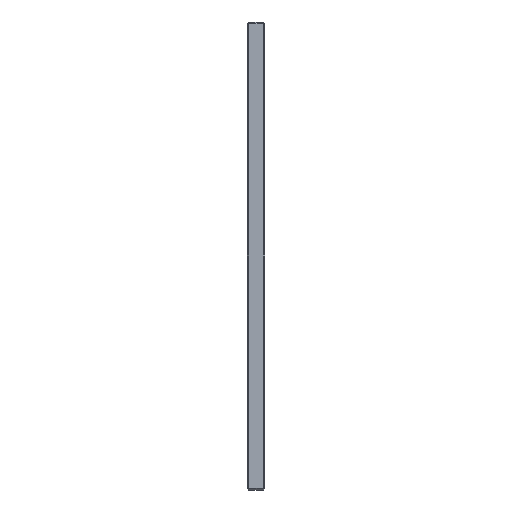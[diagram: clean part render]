
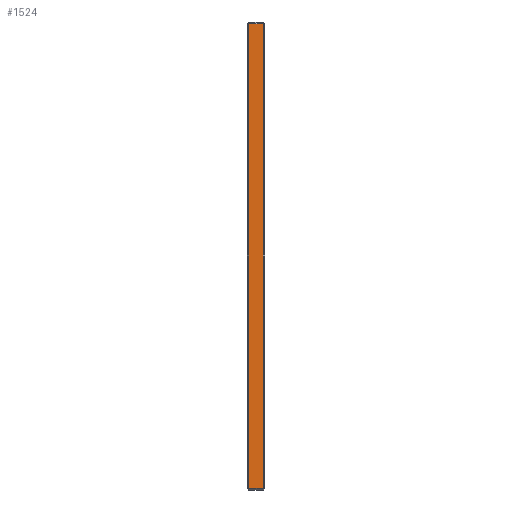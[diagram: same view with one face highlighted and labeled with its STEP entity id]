
A CAD part, left-side view. The second image highlights one B-rep face of the part: STEP entity #1524.
In plain terms, the highlighted planar face has unit normal (-1, 0, 0).
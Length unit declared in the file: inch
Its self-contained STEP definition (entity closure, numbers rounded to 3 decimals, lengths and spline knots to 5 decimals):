
#27 = VERTEX_POINT ( 'NONE', #747 ) ;
#28 = LINE ( 'NONE', #1025, #983 ) ;
#73 = VECTOR ( 'NONE', #2007, 39.37008 ) ;
#111 = EDGE_LOOP ( 'NONE', ( #1264, #954, #1531, #302 ) ) ;
#128 = DIRECTION ( 'NONE',  ( 0., -1., 0. ) ) ;
#302 = ORIENTED_EDGE ( 'NONE', *, *, #2030, .T. ) ;
#438 = CARTESIAN_POINT ( 'NONE',  ( -12.9375, 0.05, -6.575 ) ) ;
#442 = CARTESIAN_POINT ( 'NONE',  ( -12.9375, 0.5, -6.575 ) ) ;
#463 = LINE ( 'NONE', #442, #1071 ) ;
#504 = CARTESIAN_POINT ( 'NONE',  ( -12.9375, 0.5, 6.575 ) ) ;
#530 = DIRECTION ( 'NONE',  ( 0., 1., 0. ) ) ;
#559 = CARTESIAN_POINT ( 'NONE',  ( -12.9375, 0.5, -6.625 ) ) ;
#747 = CARTESIAN_POINT ( 'NONE',  ( -12.9375, 0.45, -6.575 ) ) ;
#793 = VERTEX_POINT ( 'NONE', #1976 ) ;
#919 = EDGE_CURVE ( 'NONE', #1579, #27, #28, .T. ) ;
#954 = ORIENTED_EDGE ( 'NONE', *, *, #1441, .T. ) ;
#983 = VECTOR ( 'NONE', #1060, 39.37008 ) ;
#1025 = CARTESIAN_POINT ( 'NONE',  ( -12.9375, 0.45, -6.625 ) ) ;
#1045 = PLANE ( 'NONE',  #1069 ) ;
#1060 = DIRECTION ( 'NONE',  ( 0., 0., -1. ) ) ;
#1069 = AXIS2_PLACEMENT_3D ( 'NONE', #559, #1696, #1838 ) ;
#1071 = VECTOR ( 'NONE', #128, 39.37008 ) ;
#1264 = ORIENTED_EDGE ( 'NONE', *, *, #919, .T. ) ;
#1287 = VECTOR ( 'NONE', #530, 39.37008 ) ;
#1441 = EDGE_CURVE ( 'NONE', #27, #1875, #463, .T. ) ;
#1470 = EDGE_CURVE ( 'NONE', #1875, #793, #1904, .T. ) ;
#1524 = ADVANCED_FACE ( 'Placement Plane', ( #1982 ), #1045, .F. ) ;
#1531 = ORIENTED_EDGE ( 'NONE', *, *, #1470, .T. ) ;
#1545 = LINE ( 'NONE', #504, #1287 ) ;
#1579 = VERTEX_POINT ( 'NONE', #2041 ) ;
#1696 = DIRECTION ( 'NONE',  ( 1., 0., 0. ) ) ;
#1838 = DIRECTION ( 'NONE',  ( 0., 0., -1. ) ) ;
#1875 = VERTEX_POINT ( 'NONE', #438 ) ;
#1904 = LINE ( 'NONE', #1957, #73 ) ;
#1957 = CARTESIAN_POINT ( 'NONE',  ( -12.9375, 0.05, -6.625 ) ) ;
#1976 = CARTESIAN_POINT ( 'NONE',  ( -12.9375, 0.05, 6.575 ) ) ;
#1982 = FACE_OUTER_BOUND ( 'NONE', #111, .T. ) ;
#2007 = DIRECTION ( 'NONE',  ( 0., 0., 1. ) ) ;
#2030 = EDGE_CURVE ( 'NONE', #793, #1579, #1545, .T. ) ;
#2041 = CARTESIAN_POINT ( 'NONE',  ( -12.9375, 0.45, 6.575 ) ) ;
